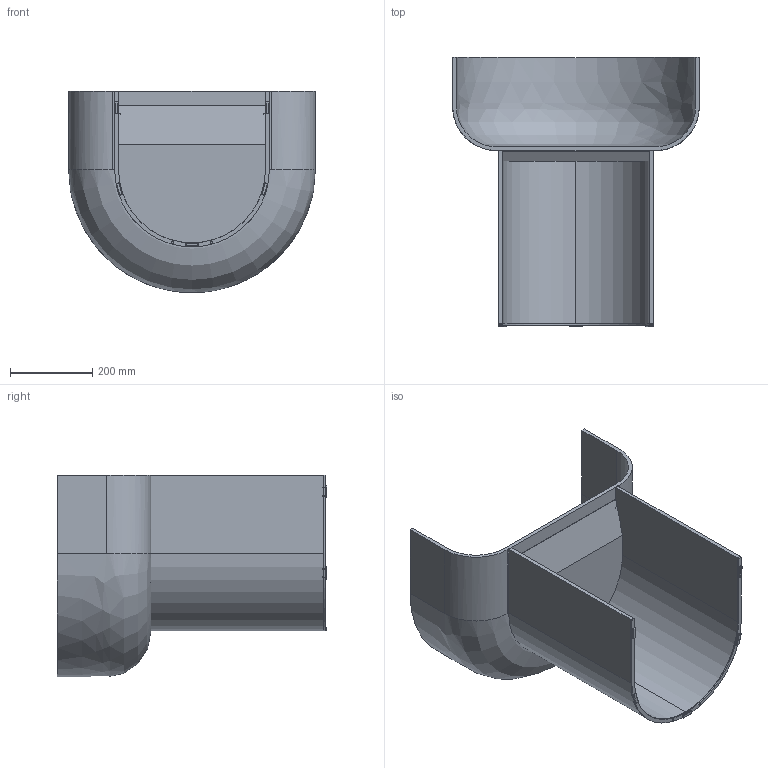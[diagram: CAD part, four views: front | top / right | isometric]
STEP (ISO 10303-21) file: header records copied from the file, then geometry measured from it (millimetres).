
FILE_DESCRIPTION (( 'STEP AP214' ), '1' );
FILE_NAME ('Half-Pipe_3D.STEP', '2026-04-02T14:23:32', ( '' ), ( '' ), 'SwSTEP 2.0', 'SolidWorks 2025', '' );
FILE_SCHEMA (( 'AUTOMOTIVE_DESIGN' ));
Length unit declared in the file: millimetre
Products named in the file (6): Poltroncina_PANNELLO; 241105 Sedia + stool Lava riciclata_Solo SEDUTA; Poltroncina_ZOCCOLO_Modificato; Poltroncina_BASAMENTO; Half-Pipe_3D; 20PT8X30N scivolo IPEA
Assembly tree (10 placements, depth 2):
  Half-Pipe_3D
    Poltroncina_BASAMENTO
    241105 Sedia + stool Lava riciclata_Solo SEDUTA
    Poltroncina_PANNELLO
    Poltroncina_ZOCCOLO_Modificato  x2
    20PT8X30N scivolo IPEA  x5
Bounding box: 600 x 655.02 x 489.87 mm (x, y, z)
Volume: 10174271.5 mm3; surface area: 2072038.4 mm2
Topology: 10 solids, 10 shells, 296 faces, 682 edges, 394 vertices
Faces by surface type: cylinder 135, plane 79, torus 40, cone 20, sphere 20, bspline 2
Entity records: 3509 total; most frequent: CARTESIAN_POINT 657, DIRECTION 604, ORIENTED_EDGE 524, EDGE_CURVE 262, AXIS2_PLACEMENT_3D 233, VERTEX_POINT 166, LINE 138, VECTOR 138
